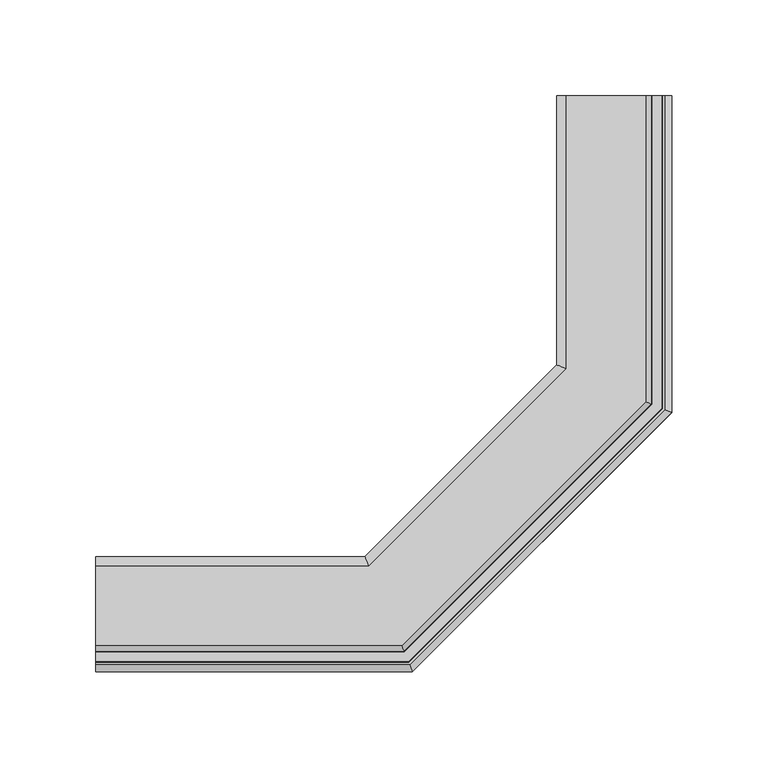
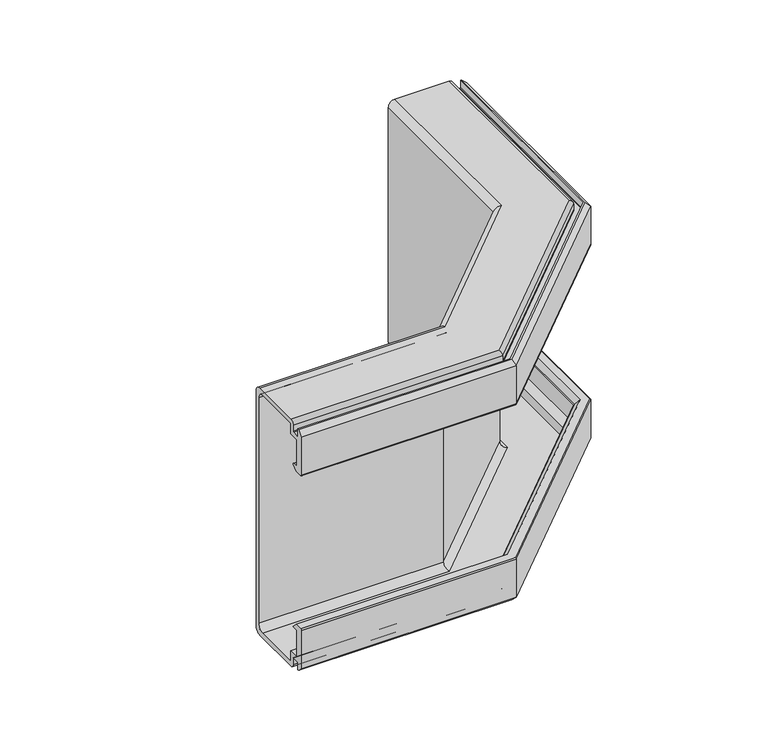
"""IFC4 building model written with IfcOpenShell, lengths in millimetres: cable carrier fitting geometry, CXBPE_Vertical_Outside_Bend-Basorplast : Basorplast CXBPE."""

from ifc_helpers import new_model, si_unit, frame, origin, place, context, project, spatial, polyline, circle_curve, ellipse_curve, source, transform, mapped, element, save
from ifc_brep_helpers import plane_surface, cylinder_surface, revolved_surface, advanced_brep


def cable_carrier_fitting_2ceb56a0(model_context):
    return source(origin(), model_context, "Body", "AdvancedBrep", [
        advanced_brep(
        [(-240.0, -49.6464466, -65.6464466), (-240.0, -50.0, -66.5), (-240.0, -54.0, -66.5), (-240.0, -54.0, -87.9), (-240.0, -45.7, -87.9), (-240.0, -45.7, -96.4), (-240.0, -8.6, -96.4), (-240.0, -3.6, -91.4), (-240.0, -3.6, 91.4), (-240.0, -8.6, 96.4), (-240.0, -45.7, 96.4), (-240.0, -45.7, 87.9), (-240.0, -54.0, 87.9), (-240.0, -54.0, 66.5), (-240.0, -50.0, 66.5), (-240.0, -49.6464466, 65.6464466), (-240.0, -53.2928932, 62.0), (-240.0, -59.0, 62.0), (-240.0, -60.0, 63.0), (-240.0, -60.0, 93.8), (-240.0, -56.3, 97.5), (-240.0, -55.3, 97.5), (-240.0, -55.3, 92.0), (-240.0, -54.8, 91.5), (-240.0, -49.8, 91.5), (-240.0, -49.3, 92.0), (-240.0, -49.3, 97.0), (-240.0, -46.3, 100.0), (-240.0, -5.0, 100.0), (-240.0, 0.0, 95.0), (-240.0, 0.0, -95.0), (-240.0, -5.0, -100.0), (-240.0, -46.3, -100.0), (-240.0, -49.3, -97.0), (-240.0, -49.3, -92.0), (-240.0, -49.8, -91.5), (-240.0, -54.8, -91.5), (-240.0, -55.3, -92.0), (-240.0, -55.3, -97.5), (-240.0, -56.3, -97.5), (-240.0, -60.0, -93.8), (-240.0, -60.0, -63.0), (-240.0, -59.0, -62.0), (-240.0, -53.2928932, -62.0), (49.6464466, 240.0, -65.6464466), (53.2928932, 240.0, -62.0), (59.0, 240.0, -62.0), (60.0, 240.0, -63.0), (60.0, 240.0, -93.8), (56.3, 240.0, -97.5), (55.3, 240.0, -97.5), (55.3, 240.0, -92.0), (54.8, 240.0, -91.5), (49.8, 240.0, -91.5), (49.3, 240.0, -92.0), (49.3, 240.0, -97.0), (46.3, 240.0, -100.0), (5.0, 240.0, -100.0), (0.0, 240.0, -95.0), (0.0, 240.0, 95.0), (5.0, 240.0, 100.0), (46.3, 240.0, 100.0), (49.3, 240.0, 97.0), (49.3, 240.0, 92.0), (49.8, 240.0, 91.5), (54.8, 240.0, 91.5), (55.3, 240.0, 92.0), (55.3, 240.0, 97.5), (56.3, 240.0, 97.5), (60.0, 240.0, 93.8), (60.0, 240.0, 63.0), (59.0, 240.0, 62.0), (53.2928932, 240.0, 62.0), (49.6464466, 240.0, 65.6464466), (50.0, 240.0, 66.5), (54.0, 240.0, 66.5), (54.0, 240.0, 87.9), (45.7, 240.0, 87.9), (45.7, 240.0, 96.4), (8.6, 240.0, 96.4), (3.6, 240.0, 91.4), (3.6, 240.0, -91.4), (8.6, 240.0, -96.4), (45.7, 240.0, -96.4), (45.7, 240.0, -87.9), (54.0, 240.0, -87.9), (54.0, 240.0, -66.5), (50.0, 240.0, -66.5), (-79.4357685, -49.6464466, -65.6464466), (-79.2893219, -50.0, -66.5), (50.0, 79.2893219, -66.5), (54.0, 77.6324676, -66.5), (-77.6324676, -54.0, -66.5), (-77.6324676, -54.0, -87.9), (54.0, 77.6324676, -87.9), (45.7, 81.0704402, -87.9), (-81.0704402, -45.7, -87.9), (-81.0704402, -45.7, -96.4), (45.7, 81.0704402, -96.4), (8.6, 96.4377634, -96.4), (-96.4377634, -8.6, -96.4), (-98.5088312, -3.6, -91.4), (-98.5088312, -3.6, 91.4), (-96.4377634, -8.6, 96.4), (8.6, 96.4377634, 96.4), (45.7, 81.0704402, 96.4), (-81.0704402, -45.7, 96.4), (-81.0704402, -45.7, 87.9), (45.7, 81.0704402, 87.9), (54.0, 77.6324676, 87.9), (-77.6324676, -54.0, 87.9), (-77.6324676, -54.0, 66.5), (54.0, 77.6324676, 66.5), (50.0, 79.2893219, 66.5), (-79.2893219, -50.0, 66.5), (-79.4357685, -49.6464466, 65.6464466), (-77.9253609, -53.2928932, 62.0), (53.2928932, 77.9253609, 62.0), (59.0, 75.5613998, 62.0), (-75.5613998, -59.0, 62.0), (-75.1471863, -60.0, 63.0), (-75.1471863, -60.0, 93.8), (-76.6797764, -56.3, 97.5), (56.3, 76.6797764, 97.5), (55.3, 77.09399, 97.5), (-77.09399, -55.3, 97.5), (-77.09399, -55.3, 92.0), (-77.3010968, -54.8, 91.5), (54.8, 77.3010968, 91.5), (49.8, 79.3721646, 91.5), (-79.3721646, -49.8, 91.5), (-79.5792714, -49.3, 92.0), (-79.5792714, -49.3, 97.0), (-80.8219121, -46.3, 100.0), (46.3, 80.8219121, 100.0), (5.0, 97.9289322, 100.0), (-97.9289322, -5.0, 100.0), (-100.0, 0.0, 95.0), (-100.0, 0.0, -95.0), (-97.9289322, -5.0, -100.0), (5.0, 97.9289322, -100.0), (46.3, 80.8219121, -100.0), (-80.8219121, -46.3, -100.0), (-79.5792714, -49.3, -97.0), (-79.5792714, -49.3, -92.0), (-79.3721646, -49.8, -91.5), (49.8, 79.3721646, -91.5), (54.8, 77.3010968, -91.5), (-77.3010968, -54.8, -91.5), (-77.09399, -55.3, -92.0), (-77.09399, -55.3, -97.5), (55.3, 77.09399, -97.5), (56.3, 76.6797764, -97.5), (-76.6797764, -56.3, -97.5), (-75.1471863, -60.0, -93.8), (-75.1471863, -60.0, -63.0), (-75.5613998, -59.0, -62.0), (59.0, 75.5613998, -62.0), (53.2928932, 77.9253609, -62.0), (-77.9253609, -53.2928932, -62.0), (49.6464466, 79.4357685, -65.6464466), (3.6, 98.5088312, -91.4), (3.6, 98.5088312, 91.4), (49.6464466, 79.4357685, 65.6464466), (60.0, 75.1471863, 63.0), (60.0, 75.1471863, 93.8), (55.3, 77.09399, 92.0), (49.3, 79.5792714, 92.0), (49.3, 79.5792714, 97.0), (0.0, 100.0, 95.0), (0.0, 100.0, -95.0), (49.3, 79.5792714, -97.0), (49.3, 79.5792714, -92.0), (55.3, 77.09399, -92.0), (60.0, 75.1471863, -93.8), (60.0, 75.1471863, -63.0)],
        [
            (0, 1, circle_curve(frame((-240.0, -50.0, -66.0), z_axis=(-1.0, 0.0, 0.0), x_axis=(0.0, 0.0, 1.0)), 0.5)),
            (1, 2),
            (2, 3),
            (3, 4),
            (4, 5),
            (5, 6),
            (6, 7, circle_curve(frame((-240.0, -8.6, -91.4), z_axis=(1.0, 0.0, 0.0), x_axis=(0.0, 0.0, 1.0)), 5.0)),
            (7, 8),
            (8, 9, circle_curve(frame((-240.0, -8.6, 91.4), z_axis=(1.0, 0.0, 0.0), x_axis=(0.0, 0.0, 1.0)), 5.0)),
            (9, 10),
            (10, 11),
            (11, 12),
            (12, 13),
            (13, 14),
            (14, 15, circle_curve(frame((-240.0, -50.0, 66.0), z_axis=(-1.0, 0.0, 0.0), x_axis=(0.0, 0.0, 1.0)), 0.5)),
            (15, 16),
            (16, 17),
            (17, 18, circle_curve(frame((-240.0, -59.0, 63.0), z_axis=(-1.0, 0.0, 0.0), x_axis=(0.0, 0.0, 1.0)), 1.0)),
            (18, 19),
            (19, 20),
            (20, 21),
            (21, 22),
            (22, 23, circle_curve(frame((-240.0, -54.8, 92.0), z_axis=(1.0, 0.0, 0.0), x_axis=(0.0, 0.0, 1.0)), 0.5)),
            (23, 24),
            (24, 25, circle_curve(frame((-240.0, -49.8, 92.0), z_axis=(1.0, 0.0, 0.0), x_axis=(0.0, 0.0, 1.0)), 0.5)),
            (25, 26),
            (26, 27, circle_curve(frame((-240.0, -46.3, 97.0), z_axis=(-1.0, 0.0, 0.0), x_axis=(0.0, 0.0, 1.0)), 3.0)),
            (27, 28),
            (28, 29, circle_curve(frame((-240.0, -5.0, 95.0), z_axis=(-1.0, 0.0, 0.0), x_axis=(0.0, 0.0, 1.0)), 5.0)),
            (29, 30),
            (30, 31, circle_curve(frame((-240.0, -5.0, -95.0), z_axis=(-1.0, 0.0, 0.0), x_axis=(0.0, 0.0, 1.0)), 5.0)),
            (31, 32),
            (32, 33, circle_curve(frame((-240.0, -46.3, -97.0), z_axis=(-1.0, 0.0, 0.0), x_axis=(0.0, 0.0, 1.0)), 3.0)),
            (33, 34),
            (34, 35, circle_curve(frame((-240.0, -49.8, -92.0), z_axis=(1.0, 0.0, 0.0), x_axis=(0.0, 0.0, 1.0)), 0.5)),
            (35, 36),
            (36, 37, circle_curve(frame((-240.0, -54.8, -92.0), z_axis=(1.0, 0.0, 0.0), x_axis=(0.0, 0.0, 1.0)), 0.5)),
            (37, 38),
            (38, 39),
            (39, 40),
            (40, 41),
            (41, 42, circle_curve(frame((-240.0, -59.0, -63.0), z_axis=(-1.0, 0.0, 0.0), x_axis=(0.0, 0.0, 1.0)), 1.0)),
            (42, 43),
            (43, 0),
            (44, 45),
            (45, 46),
            (46, 47, circle_curve(frame((59.0, 240.0, -63.0), z_axis=(0.0, 1.0, 0.0), x_axis=(0.0, 0.0, 1.0)), 1.0)),
            (47, 48),
            (48, 49),
            (49, 50),
            (50, 51),
            (51, 52, circle_curve(frame((54.8, 240.0, -92.0), z_axis=(0.0, -1.0, 0.0), x_axis=(0.0, 0.0, 1.0)), 0.5)),
            (52, 53),
            (53, 54, circle_curve(frame((49.8, 240.0, -92.0), z_axis=(0.0, -1.0, 0.0), x_axis=(0.0, 0.0, 1.0)), 0.5)),
            (54, 55),
            (55, 56, circle_curve(frame((46.3, 240.0, -97.0), z_axis=(0.0, 1.0, 0.0), x_axis=(0.0, 0.0, 1.0)), 3.0)),
            (56, 57),
            (57, 58, circle_curve(frame((5.0, 240.0, -95.0), z_axis=(0.0, 1.0, 0.0), x_axis=(0.0, 0.0, 1.0)), 5.0)),
            (58, 59),
            (59, 60, circle_curve(frame((5.0, 240.0, 95.0), z_axis=(0.0, 1.0, 0.0), x_axis=(0.0, 0.0, 1.0)), 5.0)),
            (60, 61),
            (61, 62, circle_curve(frame((46.3, 240.0, 97.0), z_axis=(0.0, 1.0, 0.0), x_axis=(0.0, 0.0, 1.0)), 3.0)),
            (62, 63),
            (63, 64, circle_curve(frame((49.8, 240.0, 92.0), z_axis=(0.0, -1.0, 0.0), x_axis=(0.0, 0.0, 1.0)), 0.5)),
            (64, 65),
            (65, 66, circle_curve(frame((54.8, 240.0, 92.0), z_axis=(0.0, -1.0, 0.0), x_axis=(0.0, 0.0, 1.0)), 0.5)),
            (66, 67),
            (67, 68),
            (68, 69),
            (69, 70),
            (70, 71, circle_curve(frame((59.0, 240.0, 63.0), z_axis=(0.0, 1.0, 0.0), x_axis=(0.0, 0.0, 1.0)), 1.0)),
            (71, 72),
            (72, 73),
            (73, 74, circle_curve(frame((50.0, 240.0, 66.0), z_axis=(0.0, 1.0, 0.0), x_axis=(0.0, 0.0, 1.0)), 0.5)),
            (74, 75),
            (75, 76),
            (76, 77),
            (77, 78),
            (78, 79),
            (79, 80, circle_curve(frame((8.6, 240.0, 91.4), z_axis=(0.0, -1.0, 0.0), x_axis=(0.0, 0.0, 1.0)), 5.0)),
            (80, 81),
            (81, 82, circle_curve(frame((8.6, 240.0, -91.4), z_axis=(0.0, -1.0, 0.0), x_axis=(0.0, 0.0, 1.0)), 5.0)),
            (82, 83),
            (83, 84),
            (84, 85),
            (85, 86),
            (86, 87),
            (87, 44, circle_curve(frame((50.0, 240.0, -66.0), z_axis=(0.0, 1.0, 0.0), x_axis=(0.0, 0.0, 1.0)), 0.5)),
            (0, 88),
            (88, 89, ellipse_curve(frame((-79.2893219, -50.0, -66.0), z_axis=(-0.923879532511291, -0.3826834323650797, 0.0), x_axis=(-0.3826834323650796, 0.9238795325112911, 0.0)), 0.5411961, 0.5)),
            (89, 1),
            (89, 90),
            (90, 87),
            (86, 91),
            (91, 92),
            (92, 2),
            (92, 93),
            (93, 3),
            (93, 94),
            (94, 85),
            (84, 95),
            (95, 96),
            (96, 4),
            (96, 97),
            (97, 5),
            (97, 98),
            (98, 83),
            (82, 99),
            (99, 100),
            (100, 6),
            (100, 101, ellipse_curve(frame((-96.4377634, -8.6, -91.4), z_axis=(0.923879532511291, 0.3826834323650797, 0.0), x_axis=(0.3826834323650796, -0.9238795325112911, 0.0)), 5.411961, 5.0)),
            (101, 7),
            (101, 102),
            (102, 8),
            (102, 103, ellipse_curve(frame((-96.4377634, -8.6, 91.4), z_axis=(0.923879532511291, 0.3826834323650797, 0.0), x_axis=(0.3826834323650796, -0.9238795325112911, 0.0)), 5.411961, 5.0)),
            (103, 9),
            (103, 104),
            (104, 79),
            (78, 105),
            (105, 106),
            (106, 10),
            (106, 107),
            (107, 11),
            (107, 108),
            (108, 77),
            (76, 109),
            (109, 110),
            (110, 12),
            (110, 111),
            (111, 13),
            (111, 112),
            (112, 75),
            (74, 113),
            (113, 114),
            (114, 14),
            (114, 115, ellipse_curve(frame((-79.2893219, -50.0, 66.0), z_axis=(-0.923879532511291, -0.3826834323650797, 0.0), x_axis=(-0.3826834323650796, 0.9238795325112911, 0.0)), 0.5411961, 0.5)),
            (115, 15),
            (115, 116),
            (116, 16),
            (116, 117),
            (117, 72),
            (71, 118),
            (118, 119),
            (119, 17),
            (119, 120, ellipse_curve(frame((-75.5613998, -59.0, 63.0), z_axis=(-0.923879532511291, -0.3826834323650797, 0.0), x_axis=(-0.3826834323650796, 0.9238795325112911, 0.0)), 1.0823922, 1.0)),
            (120, 18),
            (120, 121),
            (121, 19),
            (121, 122),
            (122, 20),
            (122, 123),
            (123, 68),
            (67, 124),
            (124, 125),
            (125, 21),
            (125, 126),
            (126, 22),
            (126, 127, ellipse_curve(frame((-77.3010968, -54.8, 92.0), z_axis=(0.923879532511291, 0.3826834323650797, 0.0), x_axis=(0.3826834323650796, -0.9238795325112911, 0.0)), 0.5411961, 0.5)),
            (127, 23),
            (127, 128),
            (128, 65),
            (64, 129),
            (129, 130),
            (130, 24),
            (130, 131, ellipse_curve(frame((-79.3721646, -49.8, 92.0), z_axis=(0.923879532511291, 0.3826834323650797, 0.0), x_axis=(0.3826834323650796, -0.9238795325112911, 0.0)), 0.5411961, 0.5)),
            (131, 25),
            (131, 132),
            (132, 26),
            (132, 133, ellipse_curve(frame((-80.8219121, -46.3, 97.0), z_axis=(-0.923879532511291, -0.3826834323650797, 0.0), x_axis=(-0.3826834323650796, 0.9238795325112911, 0.0)), 3.2471766, 3.0)),
            (133, 27),
            (133, 134),
            (134, 61),
            (60, 135),
            (135, 136),
            (136, 28),
            (136, 137, ellipse_curve(frame((-97.9289322, -5.0, 95.0), z_axis=(-0.923879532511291, -0.3826834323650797, 0.0), x_axis=(-0.3826834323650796, 0.9238795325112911, 0.0)), 5.411961, 5.0)),
            (137, 29),
            (137, 138),
            (138, 30),
            (138, 139, ellipse_curve(frame((-97.9289322, -5.0, -95.0), z_axis=(-0.923879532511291, -0.3826834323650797, 0.0), x_axis=(-0.3826834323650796, 0.9238795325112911, 0.0)), 5.411961, 5.0)),
            (139, 31),
            (139, 140),
            (140, 57),
            (56, 141),
            (141, 142),
            (142, 32),
            (142, 143, ellipse_curve(frame((-80.8219121, -46.3, -97.0), z_axis=(-0.923879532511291, -0.3826834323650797, 0.0), x_axis=(-0.3826834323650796, 0.9238795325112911, 0.0)), 3.2471766, 3.0)),
            (143, 33),
            (143, 144),
            (144, 34),
            (144, 145, ellipse_curve(frame((-79.3721646, -49.8, -92.0), z_axis=(0.923879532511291, 0.3826834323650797, 0.0), x_axis=(0.3826834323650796, -0.9238795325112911, 0.0)), 0.5411961, 0.5)),
            (145, 35),
            (145, 146),
            (146, 53),
            (52, 147),
            (147, 148),
            (148, 36),
            (148, 149, ellipse_curve(frame((-77.3010968, -54.8, -92.0), z_axis=(0.923879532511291, 0.3826834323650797, 0.0), x_axis=(0.3826834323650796, -0.9238795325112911, 0.0)), 0.5411961, 0.5)),
            (149, 37),
            (149, 150),
            (150, 38),
            (150, 151),
            (151, 50),
            (49, 152),
            (152, 153),
            (153, 39),
            (153, 154),
            (154, 40),
            (154, 155),
            (155, 41),
            (155, 156, ellipse_curve(frame((-75.5613998, -59.0, -63.0), z_axis=(-0.923879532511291, -0.3826834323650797, 0.0), x_axis=(-0.3826834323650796, 0.9238795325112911, 0.0)), 1.0823922, 1.0)),
            (156, 42),
            (156, 157),
            (157, 46),
            (45, 158),
            (158, 159),
            (159, 43),
            (159, 88),
            (90, 160, ellipse_curve(frame((50.0, 79.2893219, -66.0), z_axis=(0.38268343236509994, 0.9238795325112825, 0.0), x_axis=(0.9238795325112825, -0.38268343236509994, 0.0)), 0.5411961, 0.5)),
            (160, 44),
            (94, 91),
            (98, 95),
            (161, 99, ellipse_curve(frame((8.6, 96.4377634, -91.4), z_axis=(-0.38268343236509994, -0.9238795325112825, 0.0), x_axis=(-0.9238795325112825, 0.38268343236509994, 0.0)), 5.411961, 5.0)),
            (81, 161),
            (162, 161),
            (80, 162),
            (104, 162, ellipse_curve(frame((8.6, 96.4377634, 91.4), z_axis=(-0.38268343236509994, -0.9238795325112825, 0.0), x_axis=(-0.9238795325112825, 0.38268343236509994, 0.0)), 5.411961, 5.0)),
            (108, 105),
            (112, 109),
            (163, 113, ellipse_curve(frame((50.0, 79.2893219, 66.0), z_axis=(0.38268343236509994, 0.9238795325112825, 0.0), x_axis=(0.9238795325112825, -0.38268343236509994, 0.0)), 0.5411961, 0.5)),
            (73, 163),
            (117, 163),
            (164, 118, ellipse_curve(frame((59.0, 75.5613998, 63.0), z_axis=(0.38268343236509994, 0.9238795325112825, 0.0), x_axis=(0.9238795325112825, -0.38268343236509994, 0.0)), 1.0823922, 1.0)),
            (70, 164),
            (165, 164),
            (69, 165),
            (123, 165),
            (166, 124),
            (66, 166),
            (128, 166, ellipse_curve(frame((54.8, 77.3010968, 92.0), z_axis=(-0.38268343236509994, -0.9238795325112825, 0.0), x_axis=(-0.9238795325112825, 0.38268343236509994, 0.0)), 0.5411961, 0.5)),
            (167, 129, ellipse_curve(frame((49.8, 79.3721646, 92.0), z_axis=(-0.38268343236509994, -0.9238795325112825, 0.0), x_axis=(-0.9238795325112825, 0.38268343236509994, 0.0)), 0.5411961, 0.5)),
            (63, 167),
            (168, 167),
            (62, 168),
            (134, 168, ellipse_curve(frame((46.3, 80.8219121, 97.0), z_axis=(0.38268343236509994, 0.9238795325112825, 0.0), x_axis=(0.9238795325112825, -0.38268343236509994, 0.0)), 3.2471766, 3.0)),
            (169, 135, ellipse_curve(frame((5.0, 97.9289322, 95.0), z_axis=(0.38268343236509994, 0.9238795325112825, 0.0), x_axis=(0.9238795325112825, -0.38268343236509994, 0.0)), 5.411961, 5.0)),
            (59, 169),
            (170, 169),
            (58, 170),
            (140, 170, ellipse_curve(frame((5.0, 97.9289322, -95.0), z_axis=(0.38268343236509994, 0.9238795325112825, 0.0), x_axis=(0.9238795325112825, -0.38268343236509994, 0.0)), 5.411961, 5.0)),
            (171, 141, ellipse_curve(frame((46.3, 80.8219121, -97.0), z_axis=(0.38268343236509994, 0.9238795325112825, 0.0), x_axis=(0.9238795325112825, -0.38268343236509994, 0.0)), 3.2471766, 3.0)),
            (55, 171),
            (172, 171),
            (54, 172),
            (146, 172, ellipse_curve(frame((49.8, 79.3721646, -92.0), z_axis=(-0.38268343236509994, -0.9238795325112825, 0.0), x_axis=(-0.9238795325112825, 0.38268343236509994, 0.0)), 0.5411961, 0.5)),
            (173, 147, ellipse_curve(frame((54.8, 77.3010968, -92.0), z_axis=(-0.38268343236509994, -0.9238795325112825, 0.0), x_axis=(-0.9238795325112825, 0.38268343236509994, 0.0)), 0.5411961, 0.5)),
            (51, 173),
            (151, 173),
            (174, 152),
            (48, 174),
            (175, 174),
            (47, 175),
            (157, 175, ellipse_curve(frame((59.0, 75.5613998, -63.0), z_axis=(0.38268343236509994, 0.9238795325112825, 0.0), x_axis=(0.9238795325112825, -0.38268343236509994, 0.0)), 1.0823922, 1.0)),
            (160, 158),
            (88, 160),
            (161, 101),
            (162, 102),
            (163, 115),
            (164, 120),
            (165, 121),
            (166, 126),
            (167, 131),
            (168, 132),
            (169, 137),
            (170, 138),
            (171, 143),
            (172, 144),
            (173, 149),
            (174, 154),
            (175, 155),
        ],
        [
            plane_surface(frame((-240.0, -30.0, 0.0), z_axis=(-1.0, 0.0, 0.0), x_axis=(0.0, 0.0, 1.0))),
            plane_surface(frame((30.0, 240.0, 0.0), z_axis=(0.0, 1.0, 0.0), x_axis=(0.0, 0.0, 1.0))),
            cylinder_surface(frame((-240.0, -50.0, -66.0), z_axis=(-1.0, 0.0, 0.0), x_axis=(0.0, 0.0, 1.0)), 0.5),
            plane_surface(frame((-240.0, -50.0, -66.5), z_axis=(0.0, 0.0, -1.0), x_axis=(1.0, 0.0, 0.0))),
            plane_surface(frame((-240.0, -54.0, -66.5), z_axis=(0.0, 1.0, 0.0), x_axis=(1.0, 0.0, 0.0))),
            plane_surface(frame((-240.0, -54.0, -87.9), z_axis=(0.0, 0.0, 1.0), x_axis=(1.0, 0.0, 0.0))),
            plane_surface(frame((-240.0, -45.7, -87.9), z_axis=(0.0, 1.0, 0.0), x_axis=(1.0, 0.0, 0.0))),
            plane_surface(frame((-240.0, -45.7, -96.4), z_axis=(0.0, 0.0, 1.0), x_axis=(1.0, 0.0, 0.0))),
            revolved_surface(polyline([(-94.36669558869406, -8.6, -86.4), (-240.0, -8.6, -86.4)]), (-240.0, -8.6, -91.4), (1.0, 0.0, 0.0)),
            plane_surface(frame((-240.0, -3.6, -91.4), z_axis=(0.0, -1.0, 0.0), x_axis=(1.0, 0.0, 0.0))),
            revolved_surface(polyline([(-94.36669558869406, -8.6, 96.4), (-240.0, -8.6, 96.4)]), (-240.0, -8.6, 91.4), (1.0, 0.0, 0.0)),
            plane_surface(frame((-240.0, -8.6, 96.4), z_axis=(0.0, 0.0, -1.0), x_axis=(1.0, 0.0, 0.0))),
            plane_surface(frame((-240.0, -45.7, 96.4), z_axis=(0.0, 1.0, 0.0), x_axis=(1.0, 0.0, 0.0))),
            plane_surface(frame((-240.0, -45.7, 87.9), z_axis=(0.0, 0.0, -1.0), x_axis=(1.0, 0.0, 0.0))),
            plane_surface(frame((-240.0, -54.0, 87.9), z_axis=(0.0, 1.0, 0.0), x_axis=(1.0, 0.0, 0.0))),
            plane_surface(frame((-240.0, -54.0, 66.5), z_axis=(0.0, 0.0, 1.0), x_axis=(1.0, 0.0, 0.0))),
            cylinder_surface(frame((-240.0, -50.0, 66.0), z_axis=(-1.0, 0.0, 0.0), x_axis=(0.0, 0.0, 1.0)), 0.5),
            plane_surface(frame((-240.0, -49.6464466, 65.6464466), z_axis=(0.0, 0.7071067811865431, -0.707106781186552), x_axis=(1.0, 0.0, 0.0))),
            plane_surface(frame((-240.0, -53.2928932, 62.0), z_axis=(0.0, 0.0, -1.0), x_axis=(1.0, 0.0, 0.0))),
            cylinder_surface(frame((-240.0, -59.0, 63.0), z_axis=(-1.0, 0.0, 0.0), x_axis=(0.0, 0.0, 1.0)), 1.0),
            plane_surface(frame((-240.0, -60.0, 63.0), z_axis=(0.0, -1.0, 0.0), x_axis=(1.0, 0.0, 0.0))),
            plane_surface(frame((-240.0, -60.0, 93.8), z_axis=(0.0, -0.7071067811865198, 0.7071067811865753), x_axis=(1.0, 0.0, 0.0))),
            plane_surface(frame((-240.0, -56.3, 97.5), z_axis=(0.0, 0.0, 1.0), x_axis=(1.0, 0.0, 0.0))),
            plane_surface(frame((-240.0, -55.3, 97.5), z_axis=(0.0, 1.0, 0.0), x_axis=(1.0, 0.0, 0.0))),
            revolved_surface(polyline([(-77.09399000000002, -54.8, 92.5), (-240.0, -54.8, 92.5)]), (-240.0, -54.8, 92.0), (1.0, 0.0, 0.0)),
            plane_surface(frame((-240.0, -54.8, 91.5), z_axis=(0.0, 0.0, 1.0), x_axis=(1.0, 0.0, 0.0))),
            revolved_surface(polyline([(-79.16505781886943, -49.8, 92.5), (-240.0, -49.8, 92.5)]), (-240.0, -49.8, 92.0), (1.0, 0.0, 0.0)),
            plane_surface(frame((-240.0, -49.3, 92.0), z_axis=(0.0, -1.0, 0.0), x_axis=(1.0, 0.0, 0.0))),
            cylinder_surface(frame((-240.0, -46.3, 97.0), z_axis=(-1.0, 0.0, 0.0), x_axis=(0.0, 0.0, 1.0)), 3.0),
            plane_surface(frame((-240.0, -46.3, 100.0), z_axis=(0.0, 0.0, 1.0), x_axis=(1.0, 0.0, 0.0))),
            cylinder_surface(frame((-240.0, -5.0, 95.0), z_axis=(-1.0, 0.0, 0.0), x_axis=(0.0, 0.0, 1.0)), 5.0),
            plane_surface(frame((-240.0, 0.0, 95.0), z_axis=(0.0, 1.0, 0.0), x_axis=(1.0, 0.0, 0.0))),
            cylinder_surface(frame((-240.0, -5.0, -95.0), z_axis=(-1.0, 0.0, 0.0), x_axis=(0.0, 0.0, 1.0)), 5.0),
            plane_surface(frame((-240.0, -5.0, -100.0), z_axis=(0.0, 0.0, -1.0), x_axis=(1.0, 0.0, 0.0))),
            cylinder_surface(frame((-240.0, -46.3, -97.0), z_axis=(-1.0, 0.0, 0.0), x_axis=(0.0, 0.0, 1.0)), 3.0),
            plane_surface(frame((-240.0, -49.3, -97.0), z_axis=(0.0, -1.0, 0.0), x_axis=(1.0, 0.0, 0.0))),
            revolved_surface(polyline([(-79.16505781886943, -49.8, -91.5), (-240.0, -49.8, -91.5)]), (-240.0, -49.8, -92.0), (1.0, 0.0, 0.0)),
            plane_surface(frame((-240.0, -49.8, -91.5), z_axis=(0.0, 0.0, -1.0), x_axis=(1.0, 0.0, 0.0))),
            revolved_surface(polyline([(-77.09399000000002, -54.8, -91.5), (-240.0, -54.8, -91.5)]), (-240.0, -54.8, -92.0), (1.0, 0.0, 0.0)),
            plane_surface(frame((-240.0, -55.3, -92.0), z_axis=(0.0, 1.0, 0.0), x_axis=(1.0, 0.0, 0.0))),
            plane_surface(frame((-240.0, -55.3, -97.5), z_axis=(0.0, 0.0, -1.0), x_axis=(1.0, 0.0, 0.0))),
            plane_surface(frame((-240.0, -56.3, -97.5), z_axis=(0.0, -0.7071067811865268, -0.7071067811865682), x_axis=(1.0, 0.0, 0.0))),
            plane_surface(frame((-240.0, -60.0, -93.8), z_axis=(0.0, -1.0, 0.0), x_axis=(1.0, 0.0, 0.0))),
            cylinder_surface(frame((-240.0, -59.0, -63.0), z_axis=(-1.0, 0.0, 0.0), x_axis=(0.0, 0.0, 1.0)), 1.0),
            plane_surface(frame((-240.0, -59.0, -62.0), z_axis=(0.0, 0.0, 1.0), x_axis=(1.0, 0.0, 0.0))),
            plane_surface(frame((-240.0, -53.2928932, -62.0), z_axis=(0.0, 0.7071067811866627, 0.7071067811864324), x_axis=(1.0, 0.0, 0.0))),
            cylinder_surface(frame((50.0, 87.5735931, -66.0), z_axis=(0.0, -1.0, 0.0), x_axis=(0.0, 0.0, 1.0)), 0.5),
            plane_surface(frame((54.0, 77.6324676, -66.5), z_axis=(-1.0, 0.0, 0.0), x_axis=(0.0, 1.0, 0.0))),
            plane_surface(frame((45.7, 81.0704402, -87.9), z_axis=(-1.0, 0.0, 0.0), x_axis=(0.0, 1.0, 0.0))),
            revolved_surface(polyline([(8.6, 240.0, -86.4), (8.6, 94.36669558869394, -86.4)]), (8.6, 87.5735931, -91.4), (0.0, 1.0, 0.0)),
            plane_surface(frame((3.6, 98.5088312, -91.4), z_axis=(1.0, 0.0, 0.0), x_axis=(0.0, 1.0, 0.0))),
            revolved_surface(polyline([(8.6, 240.0, 96.4), (8.6, 94.36669558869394, 96.4)]), (8.6, 87.5735931, 91.4), (0.0, 1.0, 0.0)),
            plane_surface(frame((45.7, 81.0704402, 96.4), z_axis=(-1.0, 0.0, 0.0), x_axis=(0.0, 1.0, 0.0))),
            plane_surface(frame((54.0, 77.6324676, 87.9), z_axis=(-1.0, 0.0, 0.0), x_axis=(0.0, 1.0, 0.0))),
            cylinder_surface(frame((50.0, 87.5735931, 66.0), z_axis=(0.0, -1.0, 0.0), x_axis=(0.0, 0.0, 1.0)), 0.5),
            plane_surface(frame((49.6464466, 79.4357685, 65.6464466), z_axis=(-0.7071067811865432, 0.0, -0.7071067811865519), x_axis=(0.0, 1.0, 0.0))),
            cylinder_surface(frame((59.0, 87.5735931, 63.0), z_axis=(0.0, -1.0, 0.0), x_axis=(0.0, 0.0, 1.0)), 1.0),
            plane_surface(frame((60.0, 75.1471863, 63.0), z_axis=(1.0, 0.0, 0.0), x_axis=(0.0, 1.0, 0.0))),
            plane_surface(frame((60.0, 75.1471863, 93.8), z_axis=(0.7071067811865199, 0.0, 0.7071067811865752), x_axis=(0.0, 1.0, 0.0))),
            plane_surface(frame((55.3, 77.09399, 97.5), z_axis=(-1.0, 0.0, 0.0), x_axis=(0.0, 1.0, 0.0))),
            revolved_surface(polyline([(54.8, 240.0, 92.5), (54.8, 77.09399, 92.5)]), (54.8, 87.5735931, 92.0), (0.0, 1.0, 0.0)),
            revolved_surface(polyline([(49.8, 240.0, 92.5), (49.8, 79.1650578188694, 92.5)]), (49.8, 87.5735931, 92.0), (0.0, 1.0, 0.0)),
            plane_surface(frame((49.3, 79.5792714, 92.0), z_axis=(1.0, 0.0, 0.0), x_axis=(0.0, 1.0, 0.0))),
            cylinder_surface(frame((46.3, 87.5735931, 97.0), z_axis=(0.0, -1.0, 0.0), x_axis=(0.0, 0.0, 1.0)), 3.0),
            cylinder_surface(frame((5.0, 87.5735931, 95.0), z_axis=(0.0, -1.0, 0.0), x_axis=(0.0, 0.0, 1.0)), 5.0),
            plane_surface(frame((0.0, 100.0, 95.0), z_axis=(-1.0, 0.0, 0.0), x_axis=(0.0, 1.0, 0.0))),
            cylinder_surface(frame((5.0, 87.5735931, -95.0), z_axis=(0.0, -1.0, 0.0), x_axis=(0.0, 0.0, 1.0)), 5.0),
            cylinder_surface(frame((46.3, 87.5735931, -97.0), z_axis=(0.0, -1.0, 0.0), x_axis=(0.0, 0.0, 1.0)), 3.0),
            plane_surface(frame((49.3, 79.5792714, -97.0), z_axis=(1.0, 0.0, 0.0), x_axis=(0.0, 1.0, 0.0))),
            revolved_surface(polyline([(49.8, 240.0, -91.5), (49.8, 79.1650578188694, -91.5)]), (49.8, 87.5735931, -92.0), (0.0, 1.0, 0.0)),
            revolved_surface(polyline([(54.8, 240.0, -91.5), (54.8, 77.09399, -91.5)]), (54.8, 87.5735931, -92.0), (0.0, 1.0, 0.0)),
            plane_surface(frame((55.3, 77.09399, -92.0), z_axis=(-1.0, 0.0, 0.0), x_axis=(0.0, 1.0, 0.0))),
            plane_surface(frame((56.3, 76.6797764, -97.5), z_axis=(0.7071067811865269, 0.0, -0.7071067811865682), x_axis=(0.0, 1.0, 0.0))),
            plane_surface(frame((60.0, 75.1471863, -93.8), z_axis=(1.0, 0.0, 0.0), x_axis=(0.0, 1.0, 0.0))),
            cylinder_surface(frame((59.0, 87.5735931, -63.0), z_axis=(0.0, -1.0, 0.0), x_axis=(0.0, 0.0, 1.0)), 1.0),
            plane_surface(frame((53.2928932, 77.9253609, -62.0), z_axis=(-0.7071067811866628, 0.0, 0.7071067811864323), x_axis=(0.0, 1.0, 0.0))),
            cylinder_surface(frame((-73.4314575, -44.1421356, -66.0), z_axis=(-0.707106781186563, -0.7071067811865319, 0.0), x_axis=(0.0, 0.0, 1.0)), 0.5),
            plane_surface(frame((-77.6324676, -54.0, -66.5), z_axis=(-0.707106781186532, 0.707106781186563, 0.0), x_axis=(0.707106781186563, 0.707106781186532, 0.0))),
            plane_surface(frame((-81.0704402, -45.7, -87.9), z_axis=(-0.7071067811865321, 0.707106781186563, 0.0), x_axis=(0.707106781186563, 0.7071067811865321, 0.0))),
            revolved_surface(polyline([(10.064466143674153, 97.90222944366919, -86.4), (-97.9022294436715, -10.064466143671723, -86.4)]), (-102.7056782, -14.8679149, -91.4), (0.707106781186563, 0.7071067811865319, 0.0)),
            plane_surface(frame((-98.5088312, -3.6, -91.4), z_axis=(0.7071067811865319, -0.7071067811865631, 0.0), x_axis=(0.7071067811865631, 0.7071067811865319, 0.0))),
            revolved_surface(polyline([(10.064466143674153, 97.90222944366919, 96.4), (-97.9022294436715, -10.064466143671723, 96.4)]), (-102.7056782, -14.8679149, 91.4), (0.707106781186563, 0.7071067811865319, 0.0)),
            plane_surface(frame((-81.0704402, -45.7, 96.4), z_axis=(-0.707106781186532, 0.7071067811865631, 0.0), x_axis=(0.7071067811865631, 0.707106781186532, 0.0))),
            plane_surface(frame((-77.6324676, -54.0, 87.9), z_axis=(-0.7071067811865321, 0.707106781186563, 0.0), x_axis=(0.707106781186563, 0.7071067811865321, 0.0))),
            cylinder_surface(frame((-73.4314575, -44.1421356, 66.0), z_axis=(-0.707106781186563, -0.7071067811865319, 0.0), x_axis=(0.0, 0.0, 1.0)), 0.5),
            plane_surface(frame((-79.4357685, -49.6464466, 65.6464466), z_axis=(-0.49999999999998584, 0.5000000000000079, -0.707106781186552), x_axis=(0.7071067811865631, 0.7071067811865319, 0.0))),
            cylinder_surface(frame((-67.0674965, -50.5060967, 63.0), z_axis=(-0.707106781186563, -0.7071067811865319, 0.0), x_axis=(0.0, 0.0, 1.0)), 1.0),
            plane_surface(frame((-75.1471863, -60.0, 63.0), z_axis=(0.707106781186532, -0.7071067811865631, 0.0), x_axis=(0.7071067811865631, 0.707106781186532, 0.0))),
            plane_surface(frame((-75.1471863, -60.0, 93.8), z_axis=(0.49999999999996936, -0.49999999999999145, 0.7071067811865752), x_axis=(0.7071067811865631, 0.7071067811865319, 0.0))),
            plane_surface(frame((-77.09399, -55.3, 97.5), z_axis=(-0.707106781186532, 0.7071067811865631, 0.0), x_axis=(0.7071067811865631, 0.707106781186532, 0.0))),
            revolved_surface(polyline([(54.946446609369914, 77.44754340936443, 92.5), (-77.44754340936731, -54.946446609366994, 92.5)]), (-70.037345, -47.5362482, 92.0), (0.707106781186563, 0.7071067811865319, 0.0)),
            revolved_surface(polyline([(49.94644660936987, 79.51861120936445, 92.5), (-79.5186112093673, -49.94644660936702, 92.5)]), (-73.5728789, -44.0007143, 92.0), (0.707106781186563, 0.7071067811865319, 0.0)),
            plane_surface(frame((-79.5792714, -49.3, 92.0), z_axis=(0.707106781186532, -0.7071067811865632, 0.0), x_axis=(0.7071067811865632, 0.707106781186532, 0.0))),
            cylinder_surface(frame((-76.0477526, -41.5258405, 97.0), z_axis=(-0.707106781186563, -0.7071067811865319, 0.0), x_axis=(0.0, 0.0, 1.0)), 3.0),
            cylinder_surface(frame((-105.2512627, -12.3223305, 95.0), z_axis=(-0.707106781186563, -0.7071067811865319, 0.0), x_axis=(0.0, 0.0, 1.0)), 5.0),
            plane_surface(frame((-100.0, 0.0, 95.0), z_axis=(-0.7071067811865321, 0.707106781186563, 0.0), x_axis=(0.707106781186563, 0.7071067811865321, 0.0))),
            cylinder_surface(frame((-105.2512627, -12.3223305, -95.0), z_axis=(-0.707106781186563, -0.7071067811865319, 0.0), x_axis=(0.0, 0.0, 1.0)), 5.0),
            cylinder_surface(frame((-76.0477526, -41.5258405, -97.0), z_axis=(-0.707106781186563, -0.7071067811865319, 0.0), x_axis=(0.0, 0.0, 1.0)), 3.0),
            plane_surface(frame((-79.5792714, -49.3, -97.0), z_axis=(0.707106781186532, -0.7071067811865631, 0.0), x_axis=(0.7071067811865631, 0.707106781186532, 0.0))),
            revolved_surface(polyline([(49.94644660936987, 79.51861120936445, -91.5), (-79.5186112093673, -49.94644660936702, -91.5)]), (-73.5728789, -44.0007143, -92.0), (0.707106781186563, 0.7071067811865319, 0.0)),
            revolved_surface(polyline([(54.946446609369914, 77.44754340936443, -91.5), (-77.44754340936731, -54.946446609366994, -91.5)]), (-70.037345, -47.5362482, -92.0), (0.707106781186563, 0.7071067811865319, 0.0)),
            plane_surface(frame((-77.09399, -55.3, -92.0), z_axis=(-0.707106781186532, 0.707106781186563, 0.0), x_axis=(0.707106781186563, 0.707106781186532, 0.0))),
            plane_surface(frame((-76.6797764, -56.3, -97.5), z_axis=(0.4999999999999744, -0.4999999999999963, -0.7071067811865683), x_axis=(0.707106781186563, 0.707106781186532, 0.0))),
            plane_surface(frame((-75.1471863, -60.0, -93.8), z_axis=(0.707106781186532, -0.7071067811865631, 0.0), x_axis=(0.7071067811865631, 0.707106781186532, 0.0))),
            cylinder_surface(frame((-67.0674965, -50.5060967, -63.0), z_axis=(-0.707106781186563, -0.7071067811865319, 0.0), x_axis=(0.0, 0.0, 1.0)), 1.0),
            plane_surface(frame((-77.9253609, -53.2928932, -62.0), z_axis=(-0.5000000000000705, 0.5000000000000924, 0.7071067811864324), x_axis=(0.707106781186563, 0.707106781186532, 0.0))),
        ],
        [
            (0, [[1, 2, 3, 4, 5, 6, 7, 8, 9, 10, 11, 12, 13, 14, 15, 16, 17, 18, 19, 20, 21, 22, 23, 24, 25, 26, 27, 28, 29, 30, 31, 32, 33, 34, 35, 36, 37, 38, 39, 40, 41, 42, 43, 44]]),
            (1, [[45, 46, 47, 48, 49, 50, 51, 52, 53, 54, 55, 56, 57, 58, 59, 60, 61, 62, 63, 64, 65, 66, 67, 68, 69, 70, 71, 72, 73, 74, 75, 76, 77, 78, 79, 80, 81, 82, 83, 84, 85, 86, 87, 88]]),
            (2, [[-1, 89, 90, 91]]),
            (3, [[-2, -91, 92, 93, -87, 94, 95, 96]]),
            (4, [[-3, -96, 97, 98]]),
            (5, [[-4, -98, 99, 100, -85, 101, 102, 103]]),
            (6, [[-5, -103, 104, 105]]),
            (7, [[-6, -105, 106, 107, -83, 108, 109, 110]]),
            (8, [[-7, -110, 111, 112]]),
            (9, [[-8, -112, 113, 114]]),
            (10, [[-9, -114, 115, 116]]),
            (11, [[-10, -116, 117, 118, -79, 119, 120, 121]]),
            (12, [[-11, -121, 122, 123]]),
            (13, [[-12, -123, 124, 125, -77, 126, 127, 128]]),
            (14, [[-13, -128, 129, 130]]),
            (15, [[-14, -130, 131, 132, -75, 133, 134, 135]]),
            (16, [[-15, -135, 136, 137]]),
            (17, [[-16, -137, 138, 139]]),
            (18, [[-17, -139, 140, 141, -72, 142, 143, 144]]),
            (19, [[-18, -144, 145, 146]]),
            (20, [[-19, -146, 147, 148]]),
            (21, [[-20, -148, 149, 150]]),
            (22, [[-21, -150, 151, 152, -68, 153, 154, 155]]),
            (23, [[-22, -155, 156, 157]]),
            (24, [[-23, -157, 158, 159]]),
            (25, [[-24, -159, 160, 161, -65, 162, 163, 164]]),
            (26, [[-25, -164, 165, 166]]),
            (27, [[-26, -166, 167, 168]]),
            (28, [[-27, -168, 169, 170]]),
            (29, [[-28, -170, 171, 172, -61, 173, 174, 175]]),
            (30, [[-29, -175, 176, 177]]),
            (31, [[-30, -177, 178, 179]]),
            (32, [[-31, -179, 180, 181]]),
            (33, [[-32, -181, 182, 183, -57, 184, 185, 186]]),
            (34, [[-33, -186, 187, 188]]),
            (35, [[-34, -188, 189, 190]]),
            (36, [[-35, -190, 191, 192]]),
            (37, [[-36, -192, 193, 194, -53, 195, 196, 197]]),
            (38, [[-37, -197, 198, 199]]),
            (39, [[-38, -199, 200, 201]]),
            (40, [[-39, -201, 202, 203, -50, 204, 205, 206]]),
            (41, [[-40, -206, 207, 208]]),
            (42, [[-41, -208, 209, 210]]),
            (43, [[-42, -210, 211, 212]]),
            (44, [[-43, -212, 213, 214, -46, 215, 216, 217]]),
            (45, [[-44, -217, 218, -89]]),
            (46, [[219, 220, -88, -93]]),
            (47, [[221, -94, -86, -100]]),
            (48, [[222, -101, -84, -107]]),
            (49, [[223, -108, -82, 224]]),
            (50, [[225, -224, -81, 226]]),
            (51, [[227, -226, -80, -118]]),
            (52, [[228, -119, -78, -125]]),
            (53, [[229, -126, -76, -132]]),
            (54, [[230, -133, -74, 231]]),
            (55, [[232, -231, -73, -141]]),
            (56, [[233, -142, -71, 234]]),
            (57, [[235, -234, -70, 236]]),
            (58, [[237, -236, -69, -152]]),
            (59, [[238, -153, -67, 239]]),
            (60, [[240, -239, -66, -161]]),
            (61, [[241, -162, -64, 242]]),
            (62, [[243, -242, -63, 244]]),
            (63, [[245, -244, -62, -172]]),
            (64, [[246, -173, -60, 247]]),
            (65, [[248, -247, -59, 249]]),
            (66, [[250, -249, -58, -183]]),
            (67, [[251, -184, -56, 252]]),
            (68, [[253, -252, -55, 254]]),
            (69, [[255, -254, -54, -194]]),
            (70, [[256, -195, -52, 257]]),
            (71, [[258, -257, -51, -203]]),
            (72, [[259, -204, -49, 260]]),
            (73, [[261, -260, -48, 262]]),
            (74, [[263, -262, -47, -214]]),
            (75, [[264, -215, -45, -220]]),
            (76, [[-90, 265, -219, -92]]),
            (77, [[-97, -95, -221, -99]]),
            (78, [[-104, -102, -222, -106]]),
            (79, [[-111, -109, -223, 266]]),
            (80, [[-113, -266, -225, 267]]),
            (81, [[-115, -267, -227, -117]]),
            (82, [[-122, -120, -228, -124]]),
            (83, [[-129, -127, -229, -131]]),
            (84, [[-136, -134, -230, 268]]),
            (85, [[-138, -268, -232, -140]]),
            (86, [[-145, -143, -233, 269]]),
            (87, [[-147, -269, -235, 270]]),
            (88, [[-149, -270, -237, -151]]),
            (89, [[-156, -154, -238, 271]]),
            (90, [[-158, -271, -240, -160]]),
            (91, [[-165, -163, -241, 272]]),
            (92, [[-167, -272, -243, 273]]),
            (93, [[-169, -273, -245, -171]]),
            (94, [[-176, -174, -246, 274]]),
            (95, [[-178, -274, -248, 275]]),
            (96, [[-180, -275, -250, -182]]),
            (97, [[-187, -185, -251, 276]]),
            (98, [[-189, -276, -253, 277]]),
            (99, [[-191, -277, -255, -193]]),
            (100, [[-198, -196, -256, 278]]),
            (101, [[-200, -278, -258, -202]]),
            (102, [[-207, -205, -259, 279]]),
            (103, [[-209, -279, -261, 280]]),
            (104, [[-211, -280, -263, -213]]),
            (105, [[-218, -216, -264, -265]]),
        ],
    ),
    ])


if __name__ == "__main__":
    model = new_model("IFC4")
    model_context = context("Model", 3, world=origin())
    ifc_project = project(units=[si_unit("LENGTHUNIT", "METRE", prefix="MILLI")], contexts=[model_context])
    site = spatial("IfcSite", under=ifc_project)
    building = spatial("IfcBuilding", under=site)
    placement = place(None, origin())
    cable_carrier_fitting_shape = cable_carrier_fitting_2ceb56a0(model_context)
    element("IfcCableCarrierFitting", 1, ObjectType="CXBPE_Vertical_Outside_Bend-Basorplast : Basorplast CXBPE", at=placement, inside=building, context=model_context, shape_type="MappedRepresentation", body=[
        mapped(cable_carrier_fitting_shape, transform((0.0, 0.0, 0.0), x_axis=(1.0, 0.0, 0.0), y_axis=(0.0, 1.0, 0.0), z_axis=(0.0, 0.0, 1.0))),
    ])
    save(model, "model.ifc")
